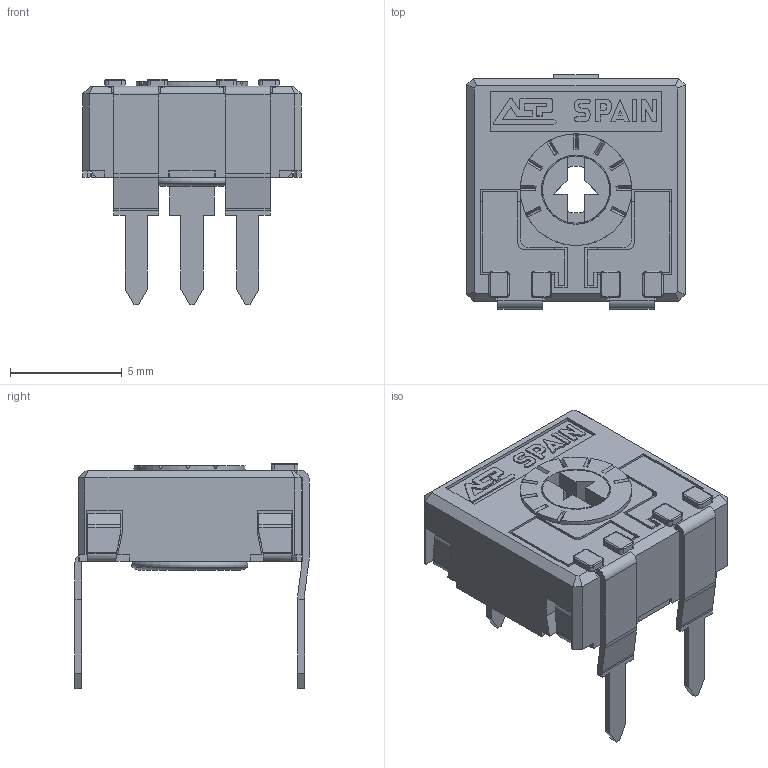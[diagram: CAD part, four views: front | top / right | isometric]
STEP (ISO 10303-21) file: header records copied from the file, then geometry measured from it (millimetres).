
FILE_DESCRIPTION(/* description */ (''),/* implementation_level */ '2;1');
FILE_NAME(/* name */ '\\SERVERACP\intercambio\Ignacio Santa Cecilia\Nueva WEB 2025\CA9 - CE9\CA9PV10.stp',/* time_stamp */ '2025-06-03T15:32:27+02:00',/* author */ ('CEM'),/* organization */ (''),/* preprocessor_version */ 'ST-DEVELOPER v17',/* originating_system */ 'Autodesk Inventor 2018',/* authorisation */ '');
FILE_SCHEMA (('AUTOMOTIVE_DESIGN { 1 0 10303 214 3 1 1 }'));
Length unit declared in the file: millimetre
Products named in the file (1): CA9PV10
Bounding box: 9.8 x 10.5 x 10.1 mm (x, y, z)
Volume: 249.7 mm3; surface area: 868.5 mm2
Topology: 2 solids, 2 shells, 620 faces, 1774 edges, 1139 vertices
Faces by surface type: plane 488, cylinder 97, torus 19, cone 16
Full cylindrical faces by diameter (mm): 3 x1, 3.1 x1, 4 x1, 4.8 x1, 5 x1
Entity records: 20258 total; most frequent: CARTESIAN_POINT 3586, ORIENTED_EDGE 3548, DIRECTION 3306, EDGE_CURVE 1774, LINE 1432, VECTOR 1432, VERTEX_POINT 1139, AXIS2_PLACEMENT_3D 937
